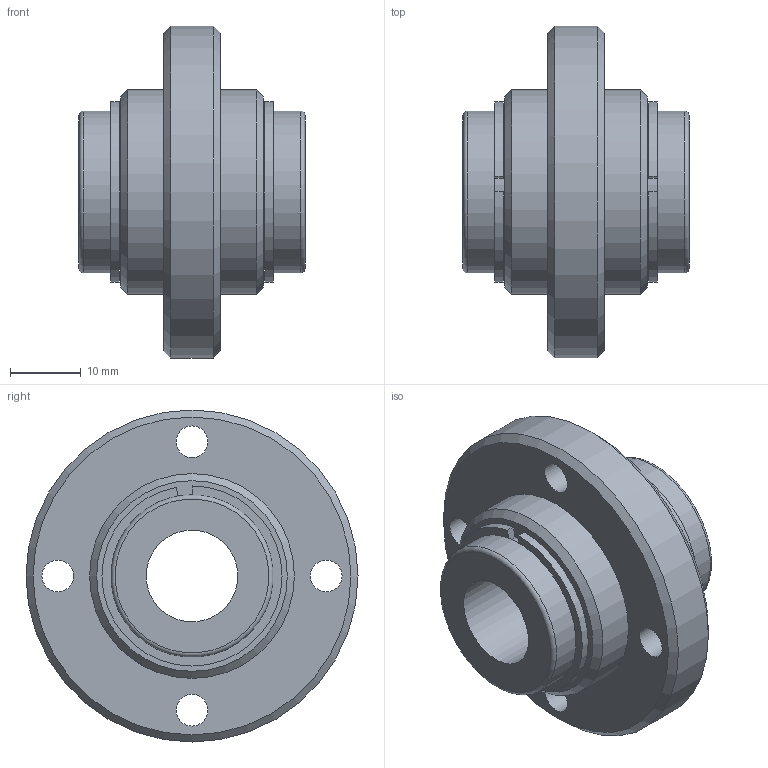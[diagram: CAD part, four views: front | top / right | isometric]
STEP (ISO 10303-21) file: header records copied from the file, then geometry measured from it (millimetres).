
FILE_DESCRIPTION(('STEP AP203'),'1');
FILE_NAME('//192.168.1.1/share/s-4 技術開発/s-4-4_CAD/s-4-4-3_見直し済み/008修正済み/PNCD/PNCD_TOP/PNCD-13VUU.step','2022-02-07T00:28:53',(' '),(' '),'Spatial InterOp 3D',' ',' ');
FILE_SCHEMA(('CONFIG_CONTROL_DESIGN'));
Length unit declared in the file: millimetre
Products named in the file (4): 1; 2; 3; 4
Bounding box: 32 x 47 x 47 mm (x, y, z)
Volume: 22047.8 mm3; surface area: 11575.8 mm2
Topology: 4 solids, 4 shells, 42 faces, 83 edges, 55 vertices
Faces by surface type: cylinder 18, plane 18, cone 4, torus 2
Full cylindrical faces by diameter (mm): 4.5 x4, 13 x1, 22 x2, 23 x4, 29 x2, 47 x1
Entity records: 1156 total; most frequent: DIRECTION 192, CARTESIAN_POINT 154, ORIENTED_EDGE 116, AXIS2_PLACEMENT_3D 88, EDGE_LOOP 80, FACE_OUTER_BOUND 58, EDGE_CURVE 58, VERTEX_POINT 50
